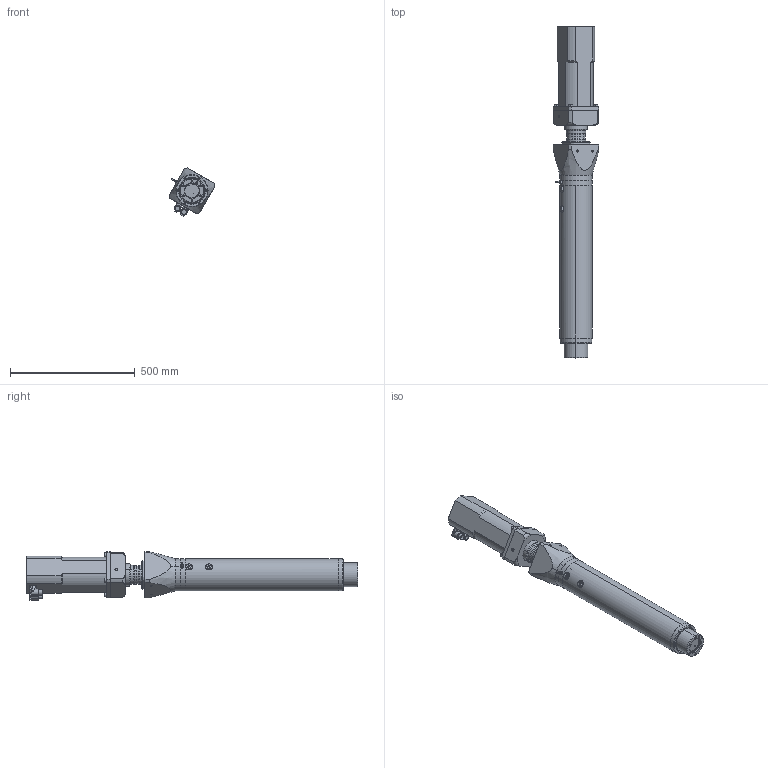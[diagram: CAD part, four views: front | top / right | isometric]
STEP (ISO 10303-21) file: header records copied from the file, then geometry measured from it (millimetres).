
FILE_DESCRIPTION (( 'STEP AP203' ), '1' );
FILE_NAME ('KM LN5I0300-035-025H.STEP', '2019-07-05T10:35:41', ( '' ), ( '' ), 'SwSTEP 2.0', 'SolidWorks 2016', '' );
FILE_SCHEMA (( 'CONFIG_CONTROL_DESIGN' ));
Products named in the file (1): KM LN5I0300-035-025H
Bounding box: 183.24 x 1332.5 x 192.74 mm (x, y, z)
Volume: 14250159.8 mm3; surface area: 1376738.5 mm2
Topology: 28 solids, 28 shells, 1912 faces, 4773 edges, 3029 vertices
Faces by surface type: plane 1277, cylinder 403, cone 180, torus 48, bspline 2, sphere 2
Entity records: 57304 total; most frequent: CARTESIAN_POINT 11419, DIRECTION 9379, ORIENTED_EDGE 9310, EDGE_CURVE 4655, VECTOR 3589, LINE 3589, VERTEX_POINT 3029, AXIS2_PLACEMENT_3D 2895
